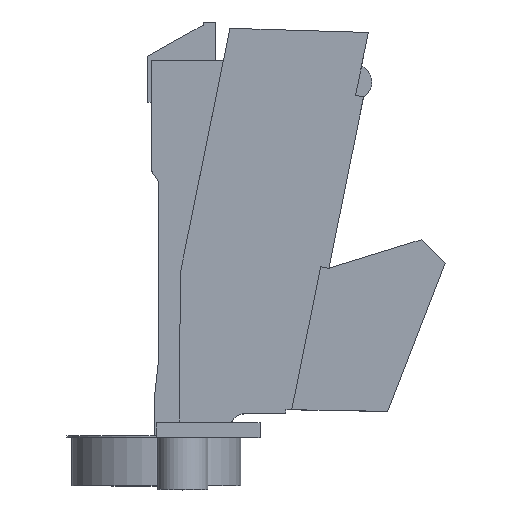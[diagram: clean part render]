
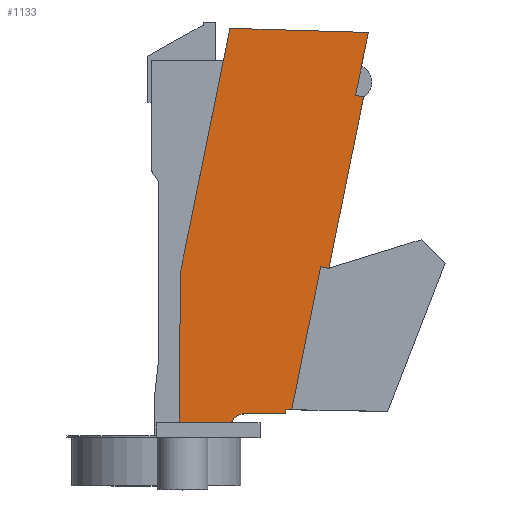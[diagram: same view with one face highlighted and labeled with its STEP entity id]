
A CAD part, top view. The second image highlights one B-rep face of the part: STEP entity #1133.
In plain terms, the highlighted planar face has unit normal (0, 0, 1).
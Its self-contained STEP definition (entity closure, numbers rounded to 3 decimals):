
#29 = DIRECTION ( 'NONE',  ( 0., 0., -1. ) ) ;
#76 = CARTESIAN_POINT ( 'NONE',  ( 23.835, -36.58, 12.1 ) ) ;
#91 = LINE ( 'NONE', #1056, #1890 ) ;
#97 = VERTEX_POINT ( 'NONE', #874 ) ;
#105 = ORIENTED_EDGE ( 'NONE', *, *, #1062, .T. ) ;
#118 = LINE ( 'NONE', #431, #1153 ) ;
#119 = EDGE_CURVE ( 'NONE', #704, #97, #118, .T. ) ;
#128 = DIRECTION ( 'NONE',  ( 0., 1., 0. ) ) ;
#146 = EDGE_CURVE ( 'NONE', #97, #1628, #912, .T. ) ;
#185 = VERTEX_POINT ( 'NONE', #895 ) ;
#194 = CARTESIAN_POINT ( 'NONE',  ( 3.759, 4.165, 12.1 ) ) ;
#257 = LINE ( 'NONE', #1175, #948 ) ;
#261 = DIRECTION ( 'NONE',  ( 1., -0.017, 0. ) ) ;
#270 = LINE ( 'NONE', #408, #1887 ) ;
#335 = ORIENTED_EDGE ( 'NONE', *, *, #2025, .T. ) ;
#355 = CARTESIAN_POINT ( 'NONE',  ( 21.036, -35.5, 12.1 ) ) ;
#368 = CARTESIAN_POINT ( 'NONE',  ( 23.835, -35.5, 12.1 ) ) ;
#371 = CARTESIAN_POINT ( 'NONE',  ( 41.255, -3.443, 12.1 ) ) ;
#376 = DIRECTION ( 'NONE',  ( 1., 0., 0. ) ) ;
#392 = VECTOR ( 'NONE', #1473, 1000. ) ;
#408 = CARTESIAN_POINT ( 'NONE',  ( 32.38, -32.714, 12.1 ) ) ;
#431 = CARTESIAN_POINT ( 'NONE',  ( 20.765, 46.271, 12.1 ) ) ;
#433 = DIRECTION ( 'NONE',  ( 0.199, 0.98, 0. ) ) ;
#482 = EDGE_CURVE ( 'NONE', #1628, #1848, #508, .T. ) ;
#500 = EDGE_CURVE ( 'NONE', #1477, #704, #1777, .T. ) ;
#508 = LINE ( 'NONE', #368, #1505 ) ;
#521 = CARTESIAN_POINT ( 'NONE',  ( 33.577, -32.735, 12.1 ) ) ;
#533 = FACE_OUTER_BOUND ( 'NONE', #1905, .T. ) ;
#544 = LINE ( 'NONE', #1140, #1956 ) ;
#564 = EDGE_CURVE ( 'NONE', #1568, #1518, #270, .T. ) ;
#630 = CARTESIAN_POINT ( 'NONE',  ( 48.457, 32.051, 12.1 ) ) ;
#671 = DIRECTION ( 'NONE',  ( -1., 0., 0. ) ) ;
#695 = EDGE_CURVE ( 'NONE', #1769, #1568, #1898, .T. ) ;
#697 = CARTESIAN_POINT ( 'NONE',  ( 49.433, 45.41, 12.1 ) ) ;
#700 = DIRECTION ( 'NONE',  ( 0.199, 0.98, 0. ) ) ;
#704 = VERTEX_POINT ( 'NONE', #1391 ) ;
#705 = ORIENTED_EDGE ( 'NONE', *, *, #500, .T. ) ;
#749 = AXIS2_PLACEMENT_3D ( 'NONE', #1131, #29, #671 ) ;
#837 = ORIENTED_EDGE ( 'NONE', *, *, #1640, .T. ) ;
#844 = LINE ( 'NONE', #194, #1849 ) ;
#874 = CARTESIAN_POINT ( 'NONE',  ( 10.52, -4.22, 12.1 ) ) ;
#895 = CARTESIAN_POINT ( 'NONE',  ( 23.8, -33.58, 12.1 ) ) ;
#899 = ORIENTED_EDGE ( 'NONE', *, *, #482, .T. ) ;
#908 = ORIENTED_EDGE ( 'NONE', *, *, #1068, .F. ) ;
#912 = LINE ( 'NONE', #1192, #1592 ) ;
#948 = VECTOR ( 'NONE', #1650, 1000. ) ;
#988 = CIRCLE ( 'NONE', #1350, 3. ) ;
#1014 = DIRECTION ( 'NONE',  ( -0.199, -0.98, 0. ) ) ;
#1022 = DIRECTION ( 'NONE',  ( -1., 0., 0. ) ) ;
#1025 = CARTESIAN_POINT ( 'NONE',  ( 46.791, 32.389, 12.1 ) ) ;
#1038 = EDGE_CURVE ( 'NONE', #1233, #1365, #257, .T. ) ;
#1056 = CARTESIAN_POINT ( 'NONE',  ( 48.023, 38.462, 12.1 ) ) ;
#1062 = EDGE_CURVE ( 'NONE', #1518, #1123, #544, .T. ) ;
#1068 = EDGE_CURVE ( 'NONE', #1365, #1751, #1444, .T. ) ;
#1100 = EDGE_CURVE ( 'NONE', #1123, #1751, #844, .T. ) ;
#1123 = VERTEX_POINT ( 'NONE', #1598 ) ;
#1129 = CARTESIAN_POINT ( 'NONE',  ( 49.433, 45.41, 12.1 ) ) ;
#1131 = CARTESIAN_POINT ( 'NONE',  ( 23.835, -36.58, 12.1 ) ) ;
#1133 = ADVANCED_FACE ( 'NONE', ( #533 ), #1467, .F. ) ;
#1140 = CARTESIAN_POINT ( 'NONE',  ( 48.023, 38.462, 12.1 ) ) ;
#1153 = VECTOR ( 'NONE', #1369, 1000. ) ;
#1175 = CARTESIAN_POINT ( 'NONE',  ( 10.961, 39.659, 12.1 ) ) ;
#1177 = ORIENTED_EDGE ( 'NONE', *, *, #1577, .T. ) ;
#1191 = DIRECTION ( 'NONE',  ( 1., 0.012, 0. ) ) ;
#1192 = CARTESIAN_POINT ( 'NONE',  ( 10.52, -4.22, 12.1 ) ) ;
#1199 = CARTESIAN_POINT ( 'NONE',  ( 23.8, -33.58, 12.1 ) ) ;
#1233 = VERTEX_POINT ( 'NONE', #1025 ) ;
#1310 = ORIENTED_EDGE ( 'NONE', *, *, #1038, .F. ) ;
#1350 = AXIS2_PLACEMENT_3D ( 'NONE', #76, #1813, #1022 ) ;
#1365 = VERTEX_POINT ( 'NONE', #630 ) ;
#1369 = DIRECTION ( 'NONE',  ( -0.199, -0.98, 0. ) ) ;
#1391 = CARTESIAN_POINT ( 'NONE',  ( 20.765, 46.271, 12.1 ) ) ;
#1412 = CARTESIAN_POINT ( 'NONE',  ( 41.255, -3.443, 12.1 ) ) ;
#1444 = LINE ( 'NONE', #371, #1875 ) ;
#1447 = VECTOR ( 'NONE', #1191, 1000. ) ;
#1467 = PLANE ( 'NONE',  #749 ) ;
#1473 = DIRECTION ( 'NONE',  ( -1., 0.03, 0. ) ) ;
#1477 = VERTEX_POINT ( 'NONE', #1129 ) ;
#1483 = LINE ( 'NONE', #1199, #1447 ) ;
#1505 = VECTOR ( 'NONE', #376, 1000. ) ;
#1518 = VERTEX_POINT ( 'NONE', #521 ) ;
#1568 = VERTEX_POINT ( 'NONE', #1693 ) ;
#1577 = EDGE_CURVE ( 'NONE', #185, #1769, #1483, .T. ) ;
#1591 = ORIENTED_EDGE ( 'NONE', *, *, #119, .T. ) ;
#1592 = VECTOR ( 'NONE', #1854, 1000. ) ;
#1598 = CARTESIAN_POINT ( 'NONE',  ( 39.589, -3.105, 12.1 ) ) ;
#1615 = ORIENTED_EDGE ( 'NONE', *, *, #1100, .T. ) ;
#1628 = VERTEX_POINT ( 'NONE', #1675 ) ;
#1640 = EDGE_CURVE ( 'NONE', #1848, #185, #988, .T. ) ;
#1650 = DIRECTION ( 'NONE',  ( 0.98, -0.199, 0. ) ) ;
#1675 = CARTESIAN_POINT ( 'NONE',  ( 10.242, -35.5, 12.1 ) ) ;
#1693 = CARTESIAN_POINT ( 'NONE',  ( 32.38, -32.714, 12.1 ) ) ;
#1751 = VERTEX_POINT ( 'NONE', #1412 ) ;
#1769 = VERTEX_POINT ( 'NONE', #1863 ) ;
#1777 = LINE ( 'NONE', #697, #392 ) ;
#1793 = ORIENTED_EDGE ( 'NONE', *, *, #564, .T. ) ;
#1813 = DIRECTION ( 'NONE',  ( 0., 0., -1. ) ) ;
#1848 = VERTEX_POINT ( 'NONE', #355 ) ;
#1849 = VECTOR ( 'NONE', #1963, 1000. ) ;
#1854 = DIRECTION ( 'NONE',  ( -0.009, -1., 0. ) ) ;
#1863 = CARTESIAN_POINT ( 'NONE',  ( 32.38, -33.48, 12.1 ) ) ;
#1875 = VECTOR ( 'NONE', #1014, 1000. ) ;
#1887 = VECTOR ( 'NONE', #261, 1000. ) ;
#1890 = VECTOR ( 'NONE', #433, 1000. ) ;
#1898 = LINE ( 'NONE', #2041, #2047 ) ;
#1905 = EDGE_LOOP ( 'NONE', ( #1911, #899, #837, #1177, #2027, #1793, #105, #1615, #908, #1310, #335, #705, #1591 ) ) ;
#1911 = ORIENTED_EDGE ( 'NONE', *, *, #146, .T. ) ;
#1956 = VECTOR ( 'NONE', #700, 1000. ) ;
#1963 = DIRECTION ( 'NONE',  ( 0.98, -0.199, 0. ) ) ;
#2025 = EDGE_CURVE ( 'NONE', #1233, #1477, #91, .T. ) ;
#2027 = ORIENTED_EDGE ( 'NONE', *, *, #695, .T. ) ;
#2041 = CARTESIAN_POINT ( 'NONE',  ( 32.38, -33.48, 12.1 ) ) ;
#2047 = VECTOR ( 'NONE', #128, 1000. ) ;
